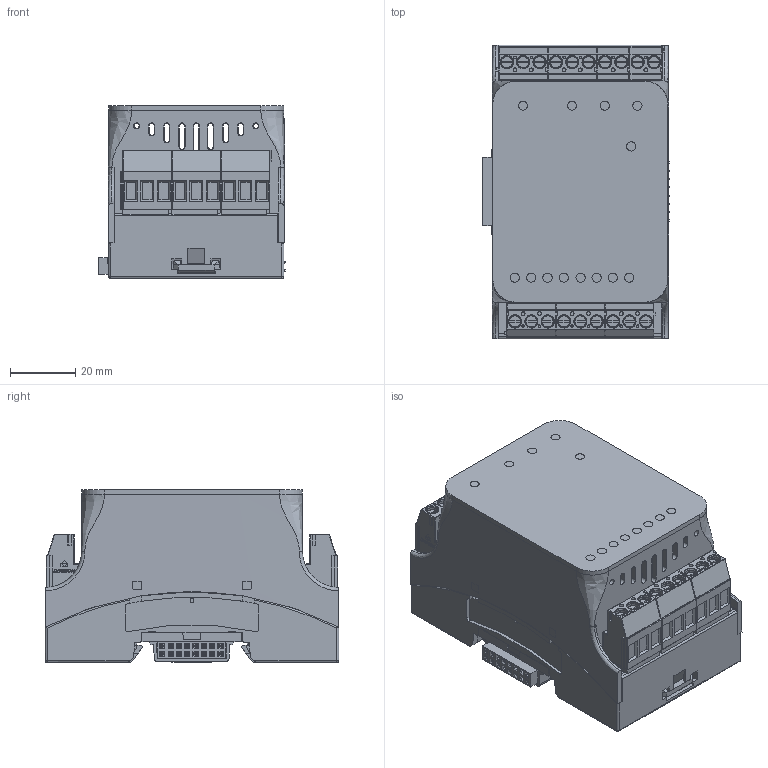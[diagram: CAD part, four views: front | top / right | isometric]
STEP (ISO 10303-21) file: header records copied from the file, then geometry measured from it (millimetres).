
FILE_DESCRIPTION(/* description */ (''),/* implementation_level */ '2;1');
FILE_NAME(/* name */ 'D:\WorkIMT\Project IMT\МВВ\v1\3D на сайт\8DI_4DO.stp',/* time_stamp */ '2026-06-09T08:43:22+03:00',/* author */ ('admin'),/* organization */ (''),/* preprocessor_version */ 'ST-DEVELOPER v17.2',/* originating_system */ 'Autodesk Inventor 2019',/* authorisation */ '');
FILE_SCHEMA (('AUTOMOTIVE_DESIGN { 1 0 10303 214 3 1 1 }'));
Products named in the file (1): MT.GARA-DIN.8DI_4DO.220V.01.01222
Bounding box: 57.13 x 89.74 x 52.89 mm (x, y, z)
Volume: 69303.5 mm3; surface area: 75213.3 mm2
Topology: 1 solids, 63 shells, 7301 faces, 20173 edges, 13024 vertices
Faces by surface type: plane 6145, cylinder 527, bspline 226, cone 206, torus 138, sphere 59
Full cylindrical faces by diameter (mm): 0.2 x4, 0.3 x1, 1.2 x18, 1.8 x4, 2.2 x8, 4.05 x19
Entity records: 252922 total; most frequent: CARTESIAN_POINT 61047, ORIENTED_EDGE 40224, DIRECTION 35613, EDGE_CURVE 20112, LINE 16863, VECTOR 16863, VERTEX_POINT 13024, AXIS2_PLACEMENT_3D 9375
